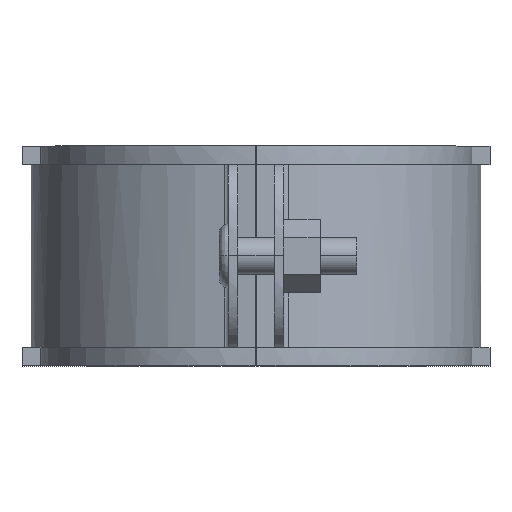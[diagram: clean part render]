
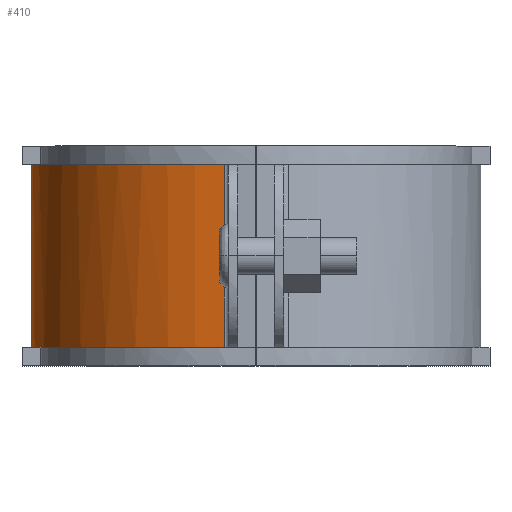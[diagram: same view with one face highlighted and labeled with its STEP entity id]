
A CAD part, top view. The second image highlights one B-rep face of the part: STEP entity #410.
In plain terms, the highlighted free-form (B-spline) face has degree [3, 1] with [4, 2] control points.
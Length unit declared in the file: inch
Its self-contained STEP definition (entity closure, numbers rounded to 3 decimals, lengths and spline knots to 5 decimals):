
#384=EDGE_CURVE('',#1054,#985,#1055,.T.);
#410=ADVANCED_FACE('',(#1099),#1100,.T.);
#642=EDGE_CURVE('',#1054,#1395,#1450,.T.);
#836=EDGE_CURVE('',#985,#1134,#1709,.T.);
#962=EDGE_CURVE('',#1134,#1395,#1868,.T.);
#985=VERTEX_POINT('',#1885);
#1054=VERTEX_POINT('',#1994);
#1055=B_SPLINE_CURVE_WITH_KNOTS('',3,(#1995,#1996,#1997,#1998),.UNSPECIFIED.,.F.,.F.,(4,4),(-1.0,-0.0),.UNSPECIFIED.);
#1099=FACE_OUTER_BOUND('',#2125,.T.);
#1100=B_SPLINE_SURFACE_WITH_KNOTS('',3,1,((#2126,#2127),(#2128,#2129),(#2130,#2131),(#2132,#2133)),.UNSPECIFIED.,.F.,.F.,.F.,(4,4),(2,2),(-1.0,-0.0),(0.0,1.25),.UNSPECIFIED.);
#1134=VERTEX_POINT('',#2191);
#1395=VERTEX_POINT('',#2741);
#1450=LINE('',#2847,#2848);
#1709=LINE('',#3413,#3414);
#1868=B_SPLINE_CURVE_WITH_KNOTS('',3,(#3696,#3697,#3698,#3699),.UNSPECIFIED.,.F.,.F.,(4,4),(0.0,1.0),.UNSPECIFIED.);
#1885=CARTESIAN_POINT('',(-0.00003,1.24627,2.28026));
#1994=CARTESIAN_POINT('',(1.31645,1.24627,3.80285));
#1995=CARTESIAN_POINT('',(1.31645,1.24627,3.80285));
#1996=CARTESIAN_POINT('',(0.5722,1.24627,3.69629));
#1997=CARTESIAN_POINT('',(-0.00003,1.24627,3.05383));
#1998=CARTESIAN_POINT('',(-0.00003,1.24627,2.28026));
#2125=EDGE_LOOP('',(#3834,#3835,#3836,#3837));
#2126=CARTESIAN_POINT('',(1.31645,1.25,3.80285));
#2127=CARTESIAN_POINT('',(1.31645,0.,3.80285));
#2128=CARTESIAN_POINT('',(0.5722,1.25,3.69629));
#2129=CARTESIAN_POINT('',(0.5722,0.,3.69629));
#2130=CARTESIAN_POINT('',(-0.00003,1.25,3.05383));
#2131=CARTESIAN_POINT('',(-0.00003,0.,3.05383));
#2132=CARTESIAN_POINT('',(-0.00003,1.25,2.28026));
#2133=CARTESIAN_POINT('',(-0.00003,0.,2.28026));
#2191=CARTESIAN_POINT('',(-0.00003,0.,2.28026));
#2741=CARTESIAN_POINT('',(1.31645,0.,3.80285));
#2847=CARTESIAN_POINT('',(1.31645,1.25,3.80285));
#2848=VECTOR('',#4347,1.0);
#3413=CARTESIAN_POINT('',(-0.00003,1.25,2.28026));
#3414=VECTOR('',#4793,1.0);
#3696=CARTESIAN_POINT('',(-0.00003,0.,2.28026));
#3697=CARTESIAN_POINT('',(-0.00003,0.,3.05383));
#3698=CARTESIAN_POINT('',(0.5722,0.,3.69629));
#3699=CARTESIAN_POINT('',(1.31645,0.,3.80285));
#3834=ORIENTED_EDGE('',*,*,#384,.T.);
#3835=ORIENTED_EDGE('',*,*,#836,.T.);
#3836=ORIENTED_EDGE('',*,*,#962,.T.);
#3837=ORIENTED_EDGE('',*,*,#642,.F.);
#4347=DIRECTION('',(0.0,-1.0,0.0));
#4793=DIRECTION('',(0.0,-1.0,0.0));
